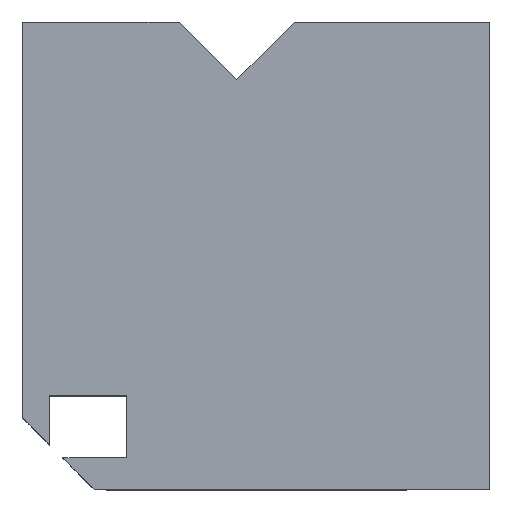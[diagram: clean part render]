
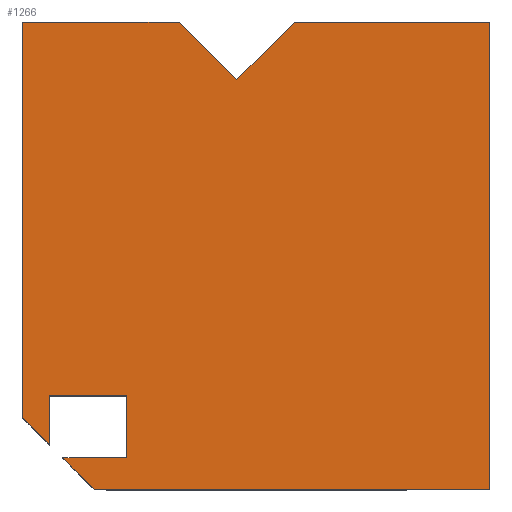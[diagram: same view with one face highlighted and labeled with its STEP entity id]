
A CAD part, top view. The second image highlights one B-rep face of the part: STEP entity #1266.
In plain terms, the highlighted planar face has unit normal (0, 0, 1).
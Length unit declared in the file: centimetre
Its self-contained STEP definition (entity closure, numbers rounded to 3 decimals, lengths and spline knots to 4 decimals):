
#39 = VECTOR ( 'NONE', #1013, 100. ) ;
#45 = ORIENTED_EDGE ( 'NONE', *, *, #1145, .T. ) ;
#60 = ORIENTED_EDGE ( 'NONE', *, *, #309, .T. ) ;
#67 = DIRECTION ( 'NONE',  ( 0.707, -0.707, 0. ) ) ;
#88 = VERTEX_POINT ( 'NONE', #1093 ) ;
#108 = CARTESIAN_POINT ( 'NONE',  ( 223.6034, 66.919, 1000. ) ) ;
#121 = LINE ( 'NONE', #108, #276 ) ;
#124 = VECTOR ( 'NONE', #67, 100. ) ;
#134 = DIRECTION ( 'NONE',  ( 0.707, -0.707, 0. ) ) ;
#146 = VECTOR ( 'NONE', #589, 100. ) ;
#154 = CARTESIAN_POINT ( 'NONE',  ( 57.8306, 95.782, 1000. ) ) ;
#159 = EDGE_CURVE ( 'NONE', #88, #1083, #1199, .T. ) ;
#164 = CARTESIAN_POINT ( 'NONE',  ( 57.8306, 66.919, 1000. ) ) ;
#175 = CARTESIAN_POINT ( 'NONE',  ( 0., 1000., 1000. ) ) ;
#181 = LINE ( 'NONE', #175, #146 ) ;
#189 = VERTEX_POINT ( 'NONE', #1318 ) ;
#192 = VECTOR ( 'NONE', #632, 100. ) ;
#195 = VERTEX_POINT ( 'NONE', #595 ) ;
#202 = EDGE_CURVE ( 'NONE', #822, #605, #181, .T. ) ;
#212 = CARTESIAN_POINT ( 'NONE',  ( 458.9519, 876.5452, 1000. ) ) ;
#223 = ORIENTED_EDGE ( 'NONE', *, *, #307, .T. ) ;
#276 = VECTOR ( 'NONE', #744, 100. ) ;
#284 = PLANE ( 'NONE',  #468 ) ;
#290 = DIRECTION ( 'NONE',  ( 1., 0., 0. ) ) ;
#307 = EDGE_CURVE ( 'NONE', #605, #189, #1322, .T. ) ;
#309 = EDGE_CURVE ( 'NONE', #1180, #762, #611, .T. ) ;
#311 = LINE ( 'NONE', #415, #401 ) ;
#314 = ORIENTED_EDGE ( 'NONE', *, *, #427, .F. ) ;
#322 = VECTOR ( 'NONE', #1022, 100. ) ;
#328 = VERTEX_POINT ( 'NONE', #1116 ) ;
#356 = EDGE_CURVE ( 'NONE', #463, #1180, #921, .T. ) ;
#362 = VERTEX_POINT ( 'NONE', #1312 ) ;
#368 = LINE ( 'NONE', #609, #39 ) ;
#373 = CARTESIAN_POINT ( 'NONE',  ( 1000., 1000., 1000. ) ) ;
#401 = VECTOR ( 'NONE', #512, 100. ) ;
#415 = CARTESIAN_POINT ( 'NONE',  ( 458.9519, 876.5452, 1000. ) ) ;
#427 = EDGE_CURVE ( 'NONE', #822, #828, #465, .T. ) ;
#436 = ORIENTED_EDGE ( 'NONE', *, *, #1216, .T. ) ;
#440 = CARTESIAN_POINT ( 'NONE',  ( 1000., 0., 1000. ) ) ;
#444 = VECTOR ( 'NONE', #680, 100. ) ;
#463 = VERTEX_POINT ( 'NONE', #440 ) ;
#465 = LINE ( 'NONE', #960, #910 ) ;
#468 = AXIS2_PLACEMENT_3D ( 'NONE', #900, #1331, #682 ) ;
#482 = CARTESIAN_POINT ( 'NONE',  ( 1000., 1000., 1000. ) ) ;
#484 = CARTESIAN_POINT ( 'NONE',  ( 86.6937, 66.919, 1000. ) ) ;
#501 = CARTESIAN_POINT ( 'NONE',  ( 0., 0., 1000. ) ) ;
#512 = DIRECTION ( 'NONE',  ( 0.707, 0.707, 0. ) ) ;
#569 = EDGE_LOOP ( 'NONE', ( #794, #314, #990, #223, #45, #806, #677, #1046, #911, #901, #436, #886, #60 ) ) ;
#583 = DIRECTION ( 'NONE',  ( 0.707, -0.707, 0. ) ) ;
#589 = DIRECTION ( 'NONE',  ( -1., 0., 0. ) ) ;
#591 = LINE ( 'NONE', #501, #1037 ) ;
#595 = CARTESIAN_POINT ( 'NONE',  ( 223.6034, 66.919, 1000. ) ) ;
#599 = CARTESIAN_POINT ( 'NONE',  ( 76.8063, 76.8063, 1000. ) ) ;
#604 = EDGE_CURVE ( 'NONE', #1262, #195, #368, .T. ) ;
#605 = VERTEX_POINT ( 'NONE', #1133 ) ;
#609 = CARTESIAN_POINT ( 'NONE',  ( 57.8306, 66.919, 1000. ) ) ;
#611 = LINE ( 'NONE', #793, #322 ) ;
#618 = LINE ( 'NONE', #624, #192 ) ;
#624 = CARTESIAN_POINT ( 'NONE',  ( 57.8306, 200.0592, 1000. ) ) ;
#632 = DIRECTION ( 'NONE',  ( -1., 0., 0. ) ) ;
#668 = VECTOR ( 'NONE', #897, 100. ) ;
#677 = ORIENTED_EDGE ( 'NONE', *, *, #1315, .F. ) ;
#680 = DIRECTION ( 'NONE',  ( 0., -1., 0. ) ) ;
#682 = DIRECTION ( 'NONE',  ( 1., 0., 0. ) ) ;
#697 = DIRECTION ( 'NONE',  ( 0., -1., 0. ) ) ;
#731 = EDGE_CURVE ( 'NONE', #828, #762, #311, .T. ) ;
#744 = DIRECTION ( 'NONE',  ( 0., 1., 0. ) ) ;
#762 = VERTEX_POINT ( 'NONE', #1147 ) ;
#773 = VECTOR ( 'NONE', #583, 100. ) ;
#793 = CARTESIAN_POINT ( 'NONE',  ( 0., 1000., 1000. ) ) ;
#794 = ORIENTED_EDGE ( 'NONE', *, *, #731, .F. ) ;
#805 = LINE ( 'NONE', #1118, #124 ) ;
#806 = ORIENTED_EDGE ( 'NONE', *, *, #159, .F. ) ;
#822 = VERTEX_POINT ( 'NONE', #1160 ) ;
#828 = VERTEX_POINT ( 'NONE', #212 ) ;
#886 = ORIENTED_EDGE ( 'NONE', *, *, #356, .T. ) ;
#897 = DIRECTION ( 'NONE',  ( 0., 1., 0. ) ) ;
#900 = CARTESIAN_POINT ( 'NONE',  ( 0., 0., 1000. ) ) ;
#901 = ORIENTED_EDGE ( 'NONE', *, *, #1190, .T. ) ;
#908 = VECTOR ( 'NONE', #697, 100. ) ;
#910 = VECTOR ( 'NONE', #134, 100. ) ;
#911 = ORIENTED_EDGE ( 'NONE', *, *, #604, .F. ) ;
#915 = FACE_OUTER_BOUND ( 'NONE', #569, .T. ) ;
#921 = LINE ( 'NONE', #482, #668 ) ;
#960 = CARTESIAN_POINT ( 'NONE',  ( 335.497, 1000., 1000. ) ) ;
#961 = EDGE_CURVE ( 'NONE', #195, #328, #121, .T. ) ;
#990 = ORIENTED_EDGE ( 'NONE', *, *, #202, .T. ) ;
#1011 = LINE ( 'NONE', #599, #773 ) ;
#1013 = DIRECTION ( 'NONE',  ( 1., 0., 0. ) ) ;
#1022 = DIRECTION ( 'NONE',  ( -1., 0., 0. ) ) ;
#1037 = VECTOR ( 'NONE', #290, 100. ) ;
#1046 = ORIENTED_EDGE ( 'NONE', *, *, #961, .F. ) ;
#1083 = VERTEX_POINT ( 'NONE', #154 ) ;
#1093 = CARTESIAN_POINT ( 'NONE',  ( 57.8306, 200.0592, 1000. ) ) ;
#1116 = CARTESIAN_POINT ( 'NONE',  ( 223.6034, 200.0592, 1000. ) ) ;
#1118 = CARTESIAN_POINT ( 'NONE',  ( 76.8063, 76.8063, 1000. ) ) ;
#1133 = CARTESIAN_POINT ( 'NONE',  ( 0., 1000., 1000. ) ) ;
#1141 = CARTESIAN_POINT ( 'NONE',  ( 0., 1000., 1000. ) ) ;
#1145 = EDGE_CURVE ( 'NONE', #189, #1083, #805, .T. ) ;
#1147 = CARTESIAN_POINT ( 'NONE',  ( 582.4067, 1000., 1000. ) ) ;
#1160 = CARTESIAN_POINT ( 'NONE',  ( 335.497, 1000., 1000. ) ) ;
#1180 = VERTEX_POINT ( 'NONE', #373 ) ;
#1190 = EDGE_CURVE ( 'NONE', #1262, #362, #1011, .T. ) ;
#1199 = LINE ( 'NONE', #164, #444 ) ;
#1216 = EDGE_CURVE ( 'NONE', #362, #463, #591, .T. ) ;
#1262 = VERTEX_POINT ( 'NONE', #484 ) ;
#1266 = ADVANCED_FACE ( 'NONE', ( #915 ), #284, .T. ) ;
#1312 = CARTESIAN_POINT ( 'NONE',  ( 153.6126, 0., 1000. ) ) ;
#1315 = EDGE_CURVE ( 'NONE', #328, #88, #618, .T. ) ;
#1318 = CARTESIAN_POINT ( 'NONE',  ( 0., 153.6126, 1000. ) ) ;
#1322 = LINE ( 'NONE', #1141, #908 ) ;
#1331 = DIRECTION ( 'NONE',  ( 0., 0., 1. ) ) ;
